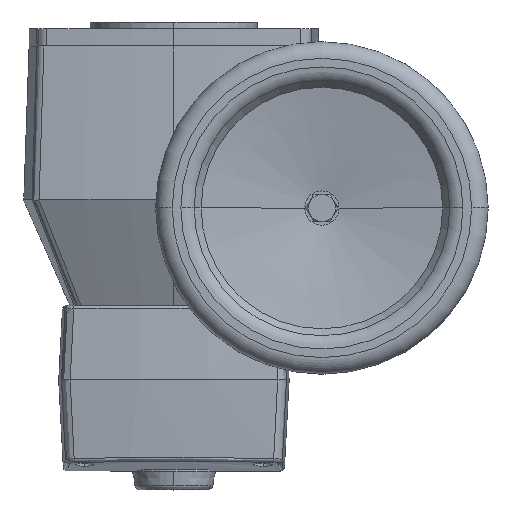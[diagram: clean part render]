
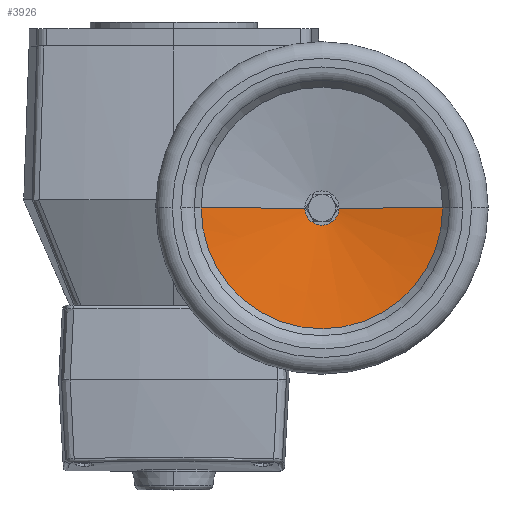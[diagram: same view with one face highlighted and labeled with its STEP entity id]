
A CAD part, top view. The second image highlights one B-rep face of the part: STEP entity #3926.
In plain terms, the highlighted conical face has half-angle 79.422 degrees and reference radius 41.463 mm.
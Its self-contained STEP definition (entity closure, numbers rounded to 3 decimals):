
#3560=CARTESIAN_POINT('',(161.629,-112.,147.586));
#3561=VERTEX_POINT('',#3560);
#3562=CARTESIAN_POINT('',(99.298,-112.,135.946));
#3563=VERTEX_POINT('',#3562);
#3564=CARTESIAN_POINT('',(161.629,-112.,147.586));
#3565=DIRECTION('',(-0.983,0.0,-0.184));
#3566=VECTOR('',#3565,63.408);
#3567=LINE('',#3564,#3566);
#3568=EDGE_CURVE('',#3561,#3563,#3567,.T.);
#3570=CARTESIAN_POINT('',(16.371,-112.,147.586));
#3571=VERTEX_POINT('',#3570);
#3579=CARTESIAN_POINT('',(78.702,-112.,135.946));
#3580=VERTEX_POINT('',#3579);
#3581=CARTESIAN_POINT('',(16.371,-112.,147.586));
#3582=DIRECTION('',(0.983,0.,-0.184));
#3583=VECTOR('',#3582,63.408);
#3584=LINE('',#3581,#3583);
#3585=EDGE_CURVE('',#3571,#3580,#3584,.T.);
#3823=CARTESIAN_POINT('',(89.0,-112.,147.586));
#3824=DIRECTION('',(0.0,0.0,1.0));
#3825=DIRECTION('',(1.0,0.0,0.0));
#3826=AXIS2_PLACEMENT_3D('',#3823,#3824,#3825);
#3827=CIRCLE('',#3826,72.629);
#3828=EDGE_CURVE('',#3571,#3561,#3827,.T.);
#3909=CARTESIAN_POINT('',(89.0,-112.,141.766));
#3910=DIRECTION('',(0.0,0.0,1.0));
#3911=DIRECTION('',(1.0,0.0,0.0));
#3912=AXIS2_PLACEMENT_3D('',#3909,#3910,#3911);
#3913=CONICAL_SURFACE('',#3912,41.463,79.422);
#3914=ORIENTED_EDGE('',*,*,#3568,.T.);
#3915=CARTESIAN_POINT('',(89.0,-112.,135.946));
#3916=DIRECTION('',(0.0,0.0,1.0));
#3917=DIRECTION('',(1.0,0.0,0.0));
#3918=AXIS2_PLACEMENT_3D('',#3915,#3916,#3917);
#3919=CIRCLE('',#3918,10.298);
#3920=EDGE_CURVE('',#3580,#3563,#3919,.T.);
#3921=ORIENTED_EDGE('',*,*,#3920,.F.);
#3922=ORIENTED_EDGE('',*,*,#3585,.F.);
#3923=ORIENTED_EDGE('',*,*,#3828,.T.);
#3924=EDGE_LOOP('',(#3914,#3921,#3922,#3923));
#3925=FACE_OUTER_BOUND('',#3924,.T.);
#3926=ADVANCED_FACE('',(#3925),#3913,.F.);
